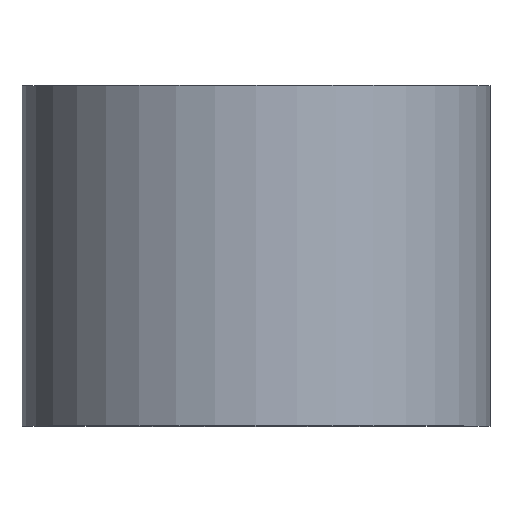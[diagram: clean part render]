
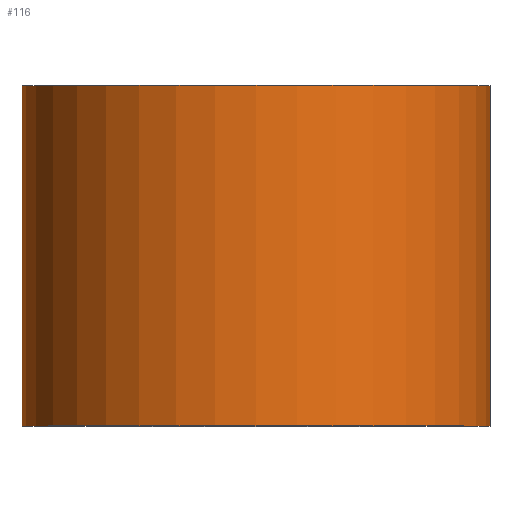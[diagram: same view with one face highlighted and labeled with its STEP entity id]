
A CAD part, top view. The second image highlights one B-rep face of the part: STEP entity #116.
In plain terms, the highlighted cylindrical face has radius 11 mm (diameter 22 mm), a partial arc.
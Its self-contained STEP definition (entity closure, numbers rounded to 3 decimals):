
#6 = VERTEX_POINT ( 'NONE', #263 ) ;
#20 = LINE ( 'NONE', #204, #67 ) ;
#27 = DIRECTION ( 'NONE',  ( 0., 1., 0. ) ) ;
#41 = CIRCLE ( 'NONE', #196, 11. ) ;
#45 = CARTESIAN_POINT ( 'NONE',  ( 0., 16., 0. ) ) ;
#50 = CARTESIAN_POINT ( 'NONE',  ( 0., 0., 0. ) ) ;
#52 = VERTEX_POINT ( 'NONE', #127 ) ;
#56 = EDGE_LOOP ( 'NONE', ( #169, #141, #130, #148 ) ) ;
#61 = EDGE_CURVE ( 'NONE', #268, #261, #20, .T. ) ;
#67 = VECTOR ( 'NONE', #269, 1000. ) ;
#72 = CIRCLE ( 'NONE', #154, 11. ) ;
#76 = CARTESIAN_POINT ( 'NONE',  ( 11., 0., 0. ) ) ;
#87 = EDGE_CURVE ( 'NONE', #268, #52, #72, .T. ) ;
#113 = EDGE_CURVE ( 'NONE', #52, #6, #259, .T. ) ;
#116 = ADVANCED_FACE ( 'NONE', ( #165 ), #222, .T. ) ;
#122 = EDGE_CURVE ( 'NONE', #261, #6, #41, .T. ) ;
#127 = CARTESIAN_POINT ( 'NONE',  ( 11., 0., 0. ) ) ;
#129 = DIRECTION ( 'NONE',  ( -1., 0., 0. ) ) ;
#130 = ORIENTED_EDGE ( 'NONE', *, *, #122, .F. ) ;
#131 = DIRECTION ( 'NONE',  ( 0., 1., 0. ) ) ;
#134 = VECTOR ( 'NONE', #131, 1000. ) ;
#141 = ORIENTED_EDGE ( 'NONE', *, *, #113, .T. ) ;
#148 = ORIENTED_EDGE ( 'NONE', *, *, #61, .F. ) ;
#154 = AXIS2_PLACEMENT_3D ( 'NONE', #226, #27, #129 ) ;
#165 = FACE_OUTER_BOUND ( 'NONE', #56, .T. ) ;
#169 = ORIENTED_EDGE ( 'NONE', *, *, #87, .T. ) ;
#177 = DIRECTION ( 'NONE',  ( 0., 1., 0. ) ) ;
#188 = AXIS2_PLACEMENT_3D ( 'NONE', #50, #177, #221 ) ;
#196 = AXIS2_PLACEMENT_3D ( 'NONE', #45, #220, #267 ) ;
#204 = CARTESIAN_POINT ( 'NONE',  ( -11., 0., 0. ) ) ;
#220 = DIRECTION ( 'NONE',  ( 0., 1., 0. ) ) ;
#221 = DIRECTION ( 'NONE',  ( -1., 0., 0. ) ) ;
#222 = CYLINDRICAL_SURFACE ( 'NONE', #188, 11. ) ;
#226 = CARTESIAN_POINT ( 'NONE',  ( 0., 0., 0. ) ) ;
#259 = LINE ( 'NONE', #76, #134 ) ;
#261 = VERTEX_POINT ( 'NONE', #274 ) ;
#263 = CARTESIAN_POINT ( 'NONE',  ( 11., 16., 0. ) ) ;
#267 = DIRECTION ( 'NONE',  ( -1., 0., 0. ) ) ;
#268 = VERTEX_POINT ( 'NONE', #271 ) ;
#269 = DIRECTION ( 'NONE',  ( 0., 1., 0. ) ) ;
#271 = CARTESIAN_POINT ( 'NONE',  ( -11., 0., 0. ) ) ;
#274 = CARTESIAN_POINT ( 'NONE',  ( -11., 16., 0. ) ) ;
